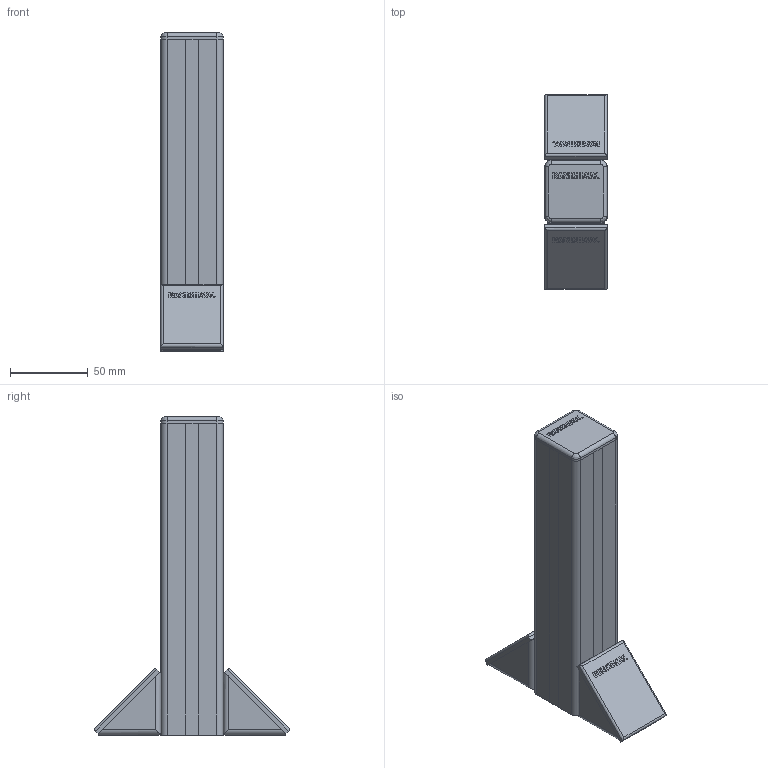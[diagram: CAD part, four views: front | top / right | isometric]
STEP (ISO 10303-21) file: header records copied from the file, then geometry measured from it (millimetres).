
FILE_DESCRIPTION(/* description */ (''),/* implementation_level */ '2;1');
FILE_NAME(/* name */ 'LA-6007-1020-A.stp',/* time_stamp */ '2015-01-28T11:16:48+00:00',/* author */ (''),/* organization */ (''),/* preprocessor_version */ 'ST-DEVELOPER v11',/* originating_system */ 'SIEMENS PLM Software NX 7.5',/* authorisation */ '');
FILE_SCHEMA (('AUTOMOTIVE_DESIGN { 1 0 10303 214 1 1 1 1 }'));
Length unit declared in the file: millimetre
Products named in the file (1): rt13982Avlb6
Bounding box: 40 x 124.77 x 204 mm (x, y, z)
Volume: 407301.2 mm3; surface area: 44541.9 mm2
Topology: 1 solids, 1 shells, 140 faces, 576 edges, 484 vertices
Faces by surface type: plane 96, cylinder 30, bspline 10, cone 4
Entity records: 8225 total; most frequent: CARTESIAN_POINT 2956, ORIENTED_EDGE 1152, DIRECTION 687, EDGE_CURVE 576, VERTEX_POINT 484, B_SPLINE_CURVE_WITH_KNOTS 256, AXIS2_PLACEMENT_3D 236, LINE 215
